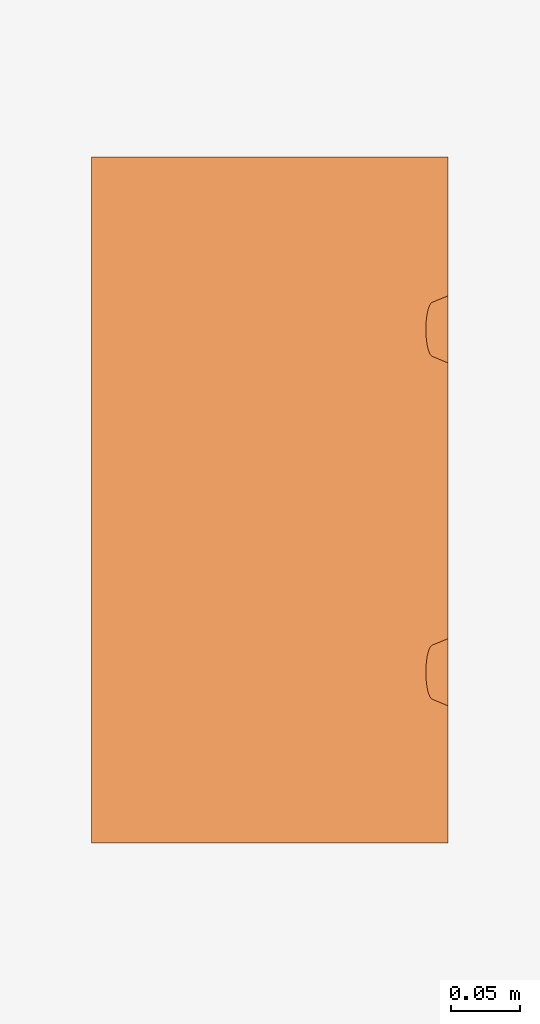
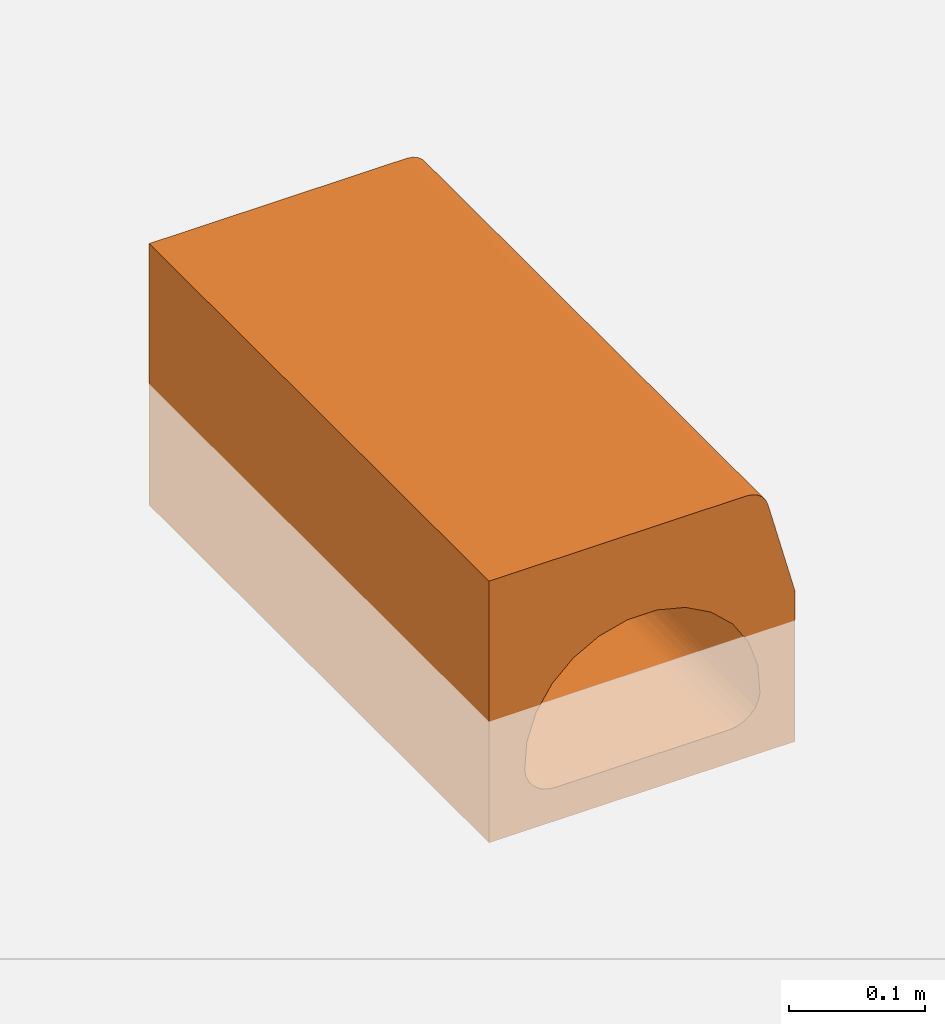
# One storey, part 2 of 2: 1 proxy.
"""IFC2X3 building model written with IfcOpenShell, lengths in millimetres."""

import ifcopenshell
import ifcopenshell.guid

model = None  # the IFC model being written
_history = None  # IfcOwnerHistory: only IFC2X3 demands one
_inside = {}  # id of a spatial element -> (the spatial element, [elements in it])
_under = {}  # id of a project, library or spatial element -> (it, [spatial elements below it])
_declared = {}  # id of a project -> (the project, [libraries it declares])
_typed = {}  # id of a type object -> (the type object, [elements of that type])
_made_of = {}  # id of a material, layer set ... -> (it, [elements and type objects made of it])


def new_model(schema):
    """Start an empty IFC model of exactly this schema.

    Asked for "IFC4X3", IfcOpenShell would pick the latest addendum, in which some entities
    have other attributes; the version numbers below select the first issue.
    IFC2X3 requires an IfcOwnerHistory on every rooted entity: one is made here for all.
    """
    global model, _history
    if schema == "IFC4X3":
        model = ifcopenshell.file(schema_version=(4, 3, 0, 0))
    else:
        model = ifcopenshell.file(schema=schema)
    _inside.clear()
    _under.clear()
    _declared.clear()
    _typed.clear()
    _made_of.clear()
    _history = None
    if model.schema == "IFC2X3":
        org = make("IfcOrganization", Name="unknown")
        user = make(
            "IfcPersonAndOrganization",
            ThePerson=make("IfcPerson", FamilyName="unknown"),
            TheOrganization=org,
        )
        app = make(
            "IfcApplication",
            ApplicationDeveloper=org,
            Version="unknown",
            ApplicationFullName="unknown",
            ApplicationIdentifier="unknown",
        )
        _history = make(
            "IfcOwnerHistory",
            OwningUser=user,
            OwningApplication=app,
            ChangeAction="ADDED",
            CreationDate=0,
        )
    return model


def make(cls, **values):
    """One entity of the class cls with the attributes given. An attribute that is None is left unset."""
    return model.create_entity(
        cls, **{name: value for name, value in values.items() if value is not None}
    )


def entity(cls, *values):
    """Any entity or typed value of the class cls, its attributes in the order of the schema. None: left unset."""
    e = model.create_entity(cls)
    for i, value in enumerate(values):
        if value is not None:
            e[i] = value
    return e


def rooted(cls, **values):
    """An entity with a GlobalId (a new one), such as an element, a storey or a relation."""
    return make(cls, GlobalId=ifcopenshell.guid.new(), OwnerHistory=_history, **values)


def si_unit(unit_type, name, prefix=None):
    """IfcSIUnit, for example si_unit("LENGTHUNIT", "METRE", prefix="MILLI")."""
    return make("IfcSIUnit", UnitType=unit_type, Prefix=prefix, Name=name)


def converted_unit(unit_type, name, factor, base, dimensions=None, offset=None):
    """IfcConversionBasedUnit, such as the inch: factor (a typed value) times the base unit."""
    return make(
        "IfcConversionBasedUnit"
        if offset is None
        else "IfcConversionBasedUnitWithOffset",
        ConversionOffset=offset,
        Dimensions=None
        if dimensions is None
        else entity("IfcDimensionalExponents", *dimensions),
        UnitType=unit_type,
        Name=name,
        ConversionFactor=make(
            "IfcMeasureWithUnit", ValueComponent=factor, UnitComponent=base
        ),
    )


def assignment(units):
    """IfcUnitAssignment: the units of a project."""
    return None if units is None else make("IfcUnitAssignment", Units=units)


def point(xyz):
    """IfcCartesianPoint."""
    return None if xyz is None else make("IfcCartesianPoint", Coordinates=xyz)


def direction(xyz):
    """IfcDirection."""
    return None if xyz is None else make("IfcDirection", DirectionRatios=xyz)


def frame(location, z_axis=None, x_axis=None):
    """IfcAxis2Placement3D, a coordinate frame: its origin and axes. An axis left out is left unset."""
    return make(
        "IfcAxis2Placement3D",
        Location=point(location),
        Axis=direction(z_axis),
        RefDirection=direction(x_axis),
    )


def origin():
    """The frame at (0, 0, 0) with its axes left unset."""
    return frame((0.0, 0.0, 0.0))


def place(relative_to, where):
    """IfcLocalPlacement: puts the frame where relative to a parent placement (None: the world)."""
    return make(
        "IfcLocalPlacement", PlacementRelTo=relative_to, RelativePlacement=where
    )


def context(
    kind, dimensions, precision=None, world=None, true_north=None, identifier=None
):
    """IfcGeometricRepresentationContext, for example the 3D "Model" context."""
    return make(
        "IfcGeometricRepresentationContext",
        ContextIdentifier=identifier,
        ContextType=kind,
        CoordinateSpaceDimension=dimensions,
        Precision=precision,
        WorldCoordinateSystem=world,
        TrueNorth=true_north,
    )


def subcontext(parent, identifier, kind, view, scale=None):
    """IfcGeometricRepresentationSubContext, for example "Body" below "Model"."""
    return make(
        "IfcGeometricRepresentationSubContext",
        ContextIdentifier=identifier,
        ContextType=kind,
        ParentContext=parent,
        TargetScale=scale,
        TargetView=view,
    )


def project(units=None, contexts=None):
    """IfcProject with its units and contexts."""
    return rooted(
        "IfcProject",
        Name="project",
        RepresentationContexts=contexts,
        UnitsInContext=assignment(units),
    )


def spatial(cls, under=None, at=None, **own):
    """A site, building, storey or space (cls), placed at a placement, below another one or the project."""
    s = rooted(cls, ObjectPlacement=at, **own)
    if under is not None:
        _under.setdefault(under.id(), (under, []))[1].append(s)
    return s


def faces_of(points, faces, orient=None, outer=None):
    """IfcFace entities. A face is a list of loops; a loop is a list of indices into points, from 0.

    orient and outer hold one flag for each loop. By default every Orientation is true, the
    first loop of a face is its IfcFaceOuterBound and the others are IfcFaceBound.
    """
    made = []
    for i, loops in enumerate(faces):
        bounds = []
        for j, loop in enumerate(loops):
            is_outer = j == 0 if outer is None else outer[i][j]
            bounds.append(
                make(
                    "IfcFaceOuterBound" if is_outer else "IfcFaceBound",
                    Bound=make("IfcPolyLoop", Polygon=[points[k] for k in loop]),
                    Orientation=True if orient is None else orient[i][j],
                )
            )
        made.append(make("IfcFace", Bounds=bounds))
    return made


def faceted_brep(points, faces, orient=None, outer=None, voids=None):
    """IfcFacetedBrep: a solid bounded by flat faces; with voids (closed shells), ...WithVoids."""
    shared = [point(p) for p in points]
    hull = make("IfcClosedShell", CfsFaces=faces_of(shared, faces, orient, outer))
    if voids is None:
        return make("IfcFacetedBrep", Outer=hull)
    return make(
        "IfcFacetedBrepWithVoids",
        Outer=hull,
        Voids=[
            make(cls, CfsFaces=faces_of(shared, fs, o, b)) for cls, fs, o, b in voids
        ],
    )


def shape(context_of_items, identifier, shape_type, items):
    """IfcShapeRepresentation: the items that make up one representation, for example the "Body"."""
    return make(
        "IfcShapeRepresentation",
        ContextOfItems=context_of_items,
        RepresentationIdentifier=identifier,
        RepresentationType=shape_type,
        Items=items,
    )


def source(mapping_origin, context_of_items, identifier, shape_type, items):
    """IfcRepresentationMap: a shape defined once, which mapped items show again and again."""
    return make(
        "IfcRepresentationMap",
        MappingOrigin=mapping_origin,
        MappedRepresentation=shape(context_of_items, identifier, shape_type, items),
    )


def transform(
    local_origin,
    x_axis=None,
    y_axis=None,
    z_axis=None,
    scale=None,
    scale2=None,
    scale3=None,
    uniform=True,
):
    """IfcCartesianTransformationOperator3D, or its non-uniform kind. x_axis, y_axis, z_axis: its Axis1, 2, 3."""
    if uniform:
        return make(
            "IfcCartesianTransformationOperator3D",
            Axis1=direction(x_axis),
            Axis2=direction(y_axis),
            LocalOrigin=point(local_origin),
            Scale=scale,
            Axis3=direction(z_axis),
        )
    return make(
        "IfcCartesianTransformationOperator3DnonUniform",
        Axis1=direction(x_axis),
        Axis2=direction(y_axis),
        LocalOrigin=point(local_origin),
        Scale=scale,
        Axis3=direction(z_axis),
        Scale2=scale2,
        Scale3=scale3,
    )


def mapped(mapping_source, mapping_target):
    """IfcMappedItem: shows the shape of a source again, moved by a transform."""
    return make(
        "IfcMappedItem", MappingSource=mapping_source, MappingTarget=mapping_target
    )


def material(Name=None, Category=None):
    """IfcMaterial."""
    return make("IfcMaterial", Name=Name, Category=Category)


def made_of(thing, what):
    """Note that an element or type object is made of a material, layer set ...; save() writes the relation."""
    if what is not None:
        _made_of.setdefault(what.id(), (what, []))[1].append(thing)
    return thing


def element(
    cls,
    number,
    at=None,
    inside=None,
    cuts=None,
    type_object=None,
    material=None,
    context=None,
    identifier="Body",
    shape_type=None,
    held_by="IfcProductDefinitionShape",
    body=None,
    shapes=None,
    **own,
):
    """One element of the class cls, such as IfcWall. Its Tag is "e" and its number.

    at: its placement. inside: the storey or other place that contains it. cuts: it is an
    opening in that element (IfcRelVoidsElement). A single representation is given by context,
    identifier, shape_type and body (its items); several are given by shapes. held_by: the class
    of the entity that holds the representations. save() writes the other relations.
    """
    e = rooted(cls, Tag="e%d" % number, ObjectPlacement=at, **own)
    if body is not None:
        shapes = [shape(context, identifier, shape_type, body)]
    if shapes is not None:
        e.Representation = make(held_by, Representations=shapes)
    if inside is not None:
        _inside.setdefault(inside.id(), (inside, []))[1].append(e)
    if cuts is not None:
        rooted(
            "IfcRelVoidsElement", RelatingBuildingElement=cuts, RelatedOpeningElement=e
        )
    if type_object is not None:
        _typed.setdefault(type_object.id(), (type_object, []))[1].append(e)
    return made_of(e, material)


def aggregate(whole, parts):
    """IfcRelAggregates: a whole, such as a stair, and the parts it consists of."""
    return rooted("IfcRelAggregates", RelatingObject=whole, RelatedObjects=parts)


def save(model, path):
    """Write the relations noted so far, then the file.

    IfcRelAggregates (storeys below a building ...), IfcRelContainedInSpatialStructure (elements
    in a storey), IfcRelDefinesByType, IfcRelAssociatesMaterial and IfcRelDeclares: one each for
    every whole, place, type object, material and project.
    """
    for whole, parts in _under.values():
        aggregate(whole, parts)
    for where, things in _inside.values():
        rooted(
            "IfcRelContainedInSpatialStructure",
            RelatedElements=things,
            RelatingStructure=where,
        )
    for kind, things in _typed.values():
        rooted("IfcRelDefinesByType", RelatedObjects=things, RelatingType=kind)
    for what, things in _made_of.values():
        rooted("IfcRelAssociatesMaterial", RelatedObjects=things, RelatingMaterial=what)
    for by, libraries in _declared.values():
        rooted("IfcRelDeclares", RelatingContext=by, RelatedDefinitions=libraries)
    model.write(path)


model = new_model("IFC2X3")

# Units and contexts
model_context = context("Model", 3, precision=1e-06, world=origin(), true_north=direction((2.0, 6.12303176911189e-17, 1.0)))
context_of_model = context(None, 3, precision=1e-06, world=origin(), true_north=direction((2.0, 6.12303176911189e-17, 1.0)))
body_context = subcontext(model_context, "Body", "Model", "MODEL_VIEW")
ifc_project = project(units=[si_unit("LENGTHUNIT", "METRE", prefix="MILLI"), si_unit("AREAUNIT", "SQUARE_METRE", prefix="MILLI"), si_unit("VOLUMEUNIT", "CUBIC_METRE", prefix="MILLI"), converted_unit("PLANEANGLEUNIT", "DEGREE", entity("IfcRatioMeasure", 0.0174532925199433), si_unit("PLANEANGLEUNIT", "RADIAN"), dimensions=[0, 0, 0, 0, 0, 0, 0]), si_unit("TIMEUNIT", "SECOND")], contexts=[model_context, context_of_model])

# Site, building, storey
site_placement = place(None, origin())
site = spatial("IfcSite", under=ifc_project, at=site_placement, Name="Default", CompositionType="ELEMENT")
building_placement = place(site_placement, origin())
building = spatial("IfcBuilding", under=site, at=building_placement, CompositionType="ELEMENT")
storey_placement = place(building_placement, origin())
storey = spatial("IfcBuildingStorey", under=building, at=storey_placement, Name="Level 1", CompositionType="ELEMENT", Elevation=0.0)

# Proxy
ifc_material = material(Name="ACO Polymer Concrete.")
shared_shape = source(origin(), body_context, "Body", "Brep", [
    faceted_brep([(9.63715044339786e-06, 144.453335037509, 65.0), (9.63715040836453e-06, 143.771851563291, 70.1763809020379), (9.63715034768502e-06, 138.595470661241, 79.1421356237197), (9.63715040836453e-06, 105.134818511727, 70.1763809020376), (9.63715037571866e-06, 141.773843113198, 75.0), (9.63715032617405e-06, 134.45333503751, 82.320508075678), (9.63715031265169e-06, 129.62971593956, 84.3185165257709), (9.63715034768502e-06, 110.311199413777, 79.1421356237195), (9.63715044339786e-06, 104.453335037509, 65.0), (9.63715054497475e-06, 146.098054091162, 49.9914158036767), (9.63715037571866e-06, 107.132826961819, 75.0), (9.63715030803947e-06, 124.453335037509, 85.0), (9.63715031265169e-06, 119.276954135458, 84.3185165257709), (9.63715032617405e-06, 114.453335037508, 82.3205080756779), (9.63715054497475e-06, 102.769362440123, 49.9914158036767), (-129.999990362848, 0.0, -110.0), (-98.5293847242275, 0.0, -61.8360012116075), (-99.7015120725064, 0.0, -55.3829147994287), (-95.7797163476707, 0.0, -67.7904558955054), (-97.9151044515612, 0.0, -30.5139849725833), (-129.999990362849, 0.0, 125.0), (-73.7383160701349, 0.0, -80.0), (-80.2446122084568, 0.0, -79.1727652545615), (130.000009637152, 0.0, -110.0), (-91.6274778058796, 0.0, -72.8673764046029), (-86.3368903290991, 0.0, -76.7437008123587), (-90.035161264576, 0.0, -6.85893438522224), (-76.5510258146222, 0.0, 14.1132618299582), (-58.3000609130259, 0.0, 31.1002333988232), (-36.4156487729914, 0.0, 43.0470919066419), (-12.2568081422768, 0.0, 49.2119392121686), (0.209696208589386, 0.0, 49.2119392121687), (88.6258776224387, 0.0, 125.0), (36.8350411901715, 0.0, 43.0470919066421), (47.7772472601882, 0.0, 37.0736626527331), (106.978468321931, 0.0, 110.917561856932), (12.6762005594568, 0.0, 49.2119392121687), (24.7556208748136, 0.0, 46.1295155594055), (80.6640046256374, 0.0, -79.1727652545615), (74.1577084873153, 0.0, -80.0), (92.0468702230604, 0.0, -72.8673764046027), (86.7562827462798, 0.0, -76.7437008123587), (96.1991087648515, 0.0, -67.7904558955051), (98.9487771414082, 0.0, -61.836001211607), (100.120904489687, 0.0, -55.382914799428), (130.000009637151, 0.0, 25.0), (98.3344968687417, 0.0, -30.5139849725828), (93.5434394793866, 0.0, 124.352590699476), (105.080360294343, 0.0, 115.499999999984), (76.9704182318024, 0.0, 14.1132618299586), (83.712485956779, 0.0, 3.62716372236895), (90.4545536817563, 0.0, -6.85893438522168), (58.7194533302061, 0.0, 31.1002333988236), (67.8449357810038, 0.0, 22.6067476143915), (102.060906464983, 0.0, 119.435028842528), (98.1258776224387, 0.0, 122.454482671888), (130.000009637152, 500.0, -110.0), (98.9487771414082, 500.0, -61.836001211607), (100.120904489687, 500.0, -55.382914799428), (130.000009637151, 500.0, 25.0), (96.1991087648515, 500.0, -67.7904558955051), (98.3344968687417, 500.0, -30.5139849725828), (74.1577084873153, 500.0, -80.0), (80.6640046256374, 500.0, -79.1727652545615), (92.0468702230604, 500.0, -72.8673764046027), (86.7562827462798, 500.0, -76.7437008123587), (-73.7383160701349, 500.0, -80.0), (-129.999990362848, 500.0, -110.0), (105.080360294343, 500.0, 115.499999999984), (106.978468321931, 500.0, 110.917561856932), (93.5434394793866, 500.0, 124.352590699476), (98.1258776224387, 500.0, 122.454482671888), (102.060906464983, 500.0, 119.435028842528), (58.7194533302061, 500.0, 31.1002333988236), (47.7772472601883, 500.0, 37.0736626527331), (36.8350411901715, 500.0, 43.0470919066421), (88.6258776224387, 500.0, 125.0), (76.9704182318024, 500.0, 14.1132618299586), (67.8449357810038, 500.0, 22.6067476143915), (90.4545536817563, 500.0, -6.85893438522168), (83.712485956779, 500.0, 3.62716372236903), (-80.2446122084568, 500.0, -79.1727652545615), (-91.6274778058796, 500.0, -72.8673764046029), (-86.3368903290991, 500.0, -76.7437008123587), (-95.7797163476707, 500.0, -67.7904558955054), (-98.5293847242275, 500.0, -61.8360012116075), (-99.7015120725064, 500.0, -55.3829147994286), (-97.9151044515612, 500.0, -30.5139849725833), (-129.999990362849, 500.0, 125.0), (-12.2568081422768, 500.0, 49.2119392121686), (-36.4156487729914, 500.0, 43.0470919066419), (12.6762005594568, 500.0, 49.2119392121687), (0.209696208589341, 500.0, 49.2119392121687), (-76.5510258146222, 500.0, 14.1132618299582), (-90.035161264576, 500.0, -6.85893438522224), (-58.3000609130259, 500.0, 31.1002333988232), (24.7556208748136, 500.0, 46.1295155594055), (88.6258776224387, 152.199845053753, 125.0), (88.6258776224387, 304.399690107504, 125.0), (130.000009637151, 118.496854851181, -4.31259771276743), (130.000009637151, 112.402818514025, -1.97690974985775), (130.000009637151, 124.987762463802, -4.99144637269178), (130.000009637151, 107.12095195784, 1.85644424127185), (130.000009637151, 103.011205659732, 6.92622752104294), (130.000009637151, 131.433196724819, -3.9671933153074), (130.000009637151, 362.402818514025, -1.97690974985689), (130.000009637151, 357.12095195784, 1.85644424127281), (130.000009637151, 142.4636952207, 2.80010660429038), (130.000009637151, 137.393911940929, -1.30963969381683), (130.000009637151, 100.353652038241, 12.8869427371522), (130.000009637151, 99.3293989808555, 19.3323769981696), (130.000009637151, 99.9653098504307, 25.0), (130.000009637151, 149.311585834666, 20.6669171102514), (130.000009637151, 148.632737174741, 14.1760094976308), (130.000009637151, 349.329398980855, 19.3323769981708), (130.000009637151, 349.965309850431, 25.0), (130.000009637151, 148.836743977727, 25.0), (130.000009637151, 146.297049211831, 8.08197316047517), (130.000009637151, 350.353652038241, 12.8869427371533), (130.000009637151, 353.011205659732, 6.92622752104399), (130.000009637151, 374.987762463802, -4.99144637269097), (130.000009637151, 368.496854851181, -4.3125977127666), (130.000009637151, 381.433196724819, -3.96719331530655), (130.000009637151, 387.393911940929, -1.30963969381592), (130.000009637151, 392.4636952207, 2.8001066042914), (130.000009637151, 398.632737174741, 14.176009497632), (130.000009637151, 396.297049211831, 8.08197316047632), (130.000009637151, 398.836743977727, 25.0), (130.000009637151, 399.311585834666, 20.6669171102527), (119.282041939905, 104.453335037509, 65.0), (117.999553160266, 105.034498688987, 69.786313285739), (119.282041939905, 144.453335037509, 65.0), (119.282041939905, 354.453335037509, 65.0), (116.791597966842, 142.162455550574, 74.2944634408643), (117.999553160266, 143.87217138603, 69.7863132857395), (117.999553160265, 355.034498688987, 69.7863132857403), (116.791597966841, 356.744214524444, 74.294463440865), (116.791597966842, 106.744214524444, 74.2944634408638), (115.728378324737, 109.483120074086, 78.262453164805), (114.871684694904, 113.092040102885, 81.4596773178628), (114.271304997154, 117.361237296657, 83.7003248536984), (113.962131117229, 122.042601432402, 84.8541774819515), (114.871684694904, 135.814629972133, 81.4596773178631), (115.728378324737, 139.423550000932, 78.2624531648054), (115.728378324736, 359.483120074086, 78.2624531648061), (114.871684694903, 363.092040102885, 81.4596773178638), (113.962131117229, 372.042601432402, 84.8541774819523), (113.962131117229, 126.864068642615, 84.8541774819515), (114.271304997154, 131.54543277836, 83.7003248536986), (114.271304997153, 367.361237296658, 83.7003248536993), (119.282041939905, 394.453335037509, 65.0), (117.999553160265, 393.87217138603, 69.7863132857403), (116.791597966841, 392.162455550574, 74.294463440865), (114.871684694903, 385.814629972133, 81.4596773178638), (115.728378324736, 389.423550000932, 78.2624531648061), (113.962131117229, 376.864068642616, 84.8541774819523), (114.271304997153, 381.54543277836, 83.7003248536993), (106.978468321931, 423.900064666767, 110.917561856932), (100.192344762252, 383.807890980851, 121.073713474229), (103.699591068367, 348.576324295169, 117.5664671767), (105.66949189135, 104.875634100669, 114.397333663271), (103.699591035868, 151.423670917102, 117.566467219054), (95.8968628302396, 348.576326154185, 123.553711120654), (92.0249211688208, 364.149902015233, 124.693488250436), (92.644420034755, 238.971100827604, 124.570172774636), (105.523211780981, 238.971095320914, 114.687928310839), (106.978468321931, 304.399745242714, 110.917561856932), (105.802663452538, 364.149900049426, 114.12145482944), (100.192344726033, 116.192108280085, 121.07371350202), (102.995163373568, 249.99999804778, 118.430753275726), (96.9140184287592, 250.0, 123.096979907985), (100.192344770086, 249.999999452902, 121.073713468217), (88.6258776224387, 423.900077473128, 125.0), (106.978468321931, 152.199872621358, 110.917561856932), (95.8968627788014, 151.423674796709, 123.553711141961), (92.3258671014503, 104.875635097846, 124.636257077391), (9.63715034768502e-06, 388.595470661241, 79.1421356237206), (9.63715040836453e-06, 355.134818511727, 70.1763809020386), (9.63715040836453e-06, 393.771851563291, 70.1763809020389), (9.63715037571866e-06, 391.773843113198, 75.0), (9.63715044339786e-06, 394.453335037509, 65.0), (9.63715044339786e-06, 354.453335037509, 65.0), (9.63715054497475e-06, 396.098054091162, 49.9914158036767), (9.63715032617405e-06, 384.453335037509, 82.3205080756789), (9.63715031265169e-06, 379.62971593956, 84.3185165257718), (9.63715030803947e-06, 374.453335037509, 85.0), (9.63715034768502e-06, 360.311199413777, 79.1421356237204), (9.63715037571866e-06, 357.132826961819, 75.0), (9.63715031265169e-06, 369.276954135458, 84.3185165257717), (9.63715032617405e-06, 364.453335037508, 82.3205080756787), (9.63715054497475e-06, 352.769362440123, 49.9914158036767), (19.5816780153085, 146.305506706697, 48.0983447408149), (38.4143930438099, 146.928836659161, 42.4102607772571), (55.7700503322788, 147.943944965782, 33.1470747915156), (70.9776510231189, 149.311585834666, 20.6669171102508), (77.5459237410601, 148.438723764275, 13.4185440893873), (83.0580161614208, 145.05631298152, 6.03448521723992), (85.0564161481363, 141.930332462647, 2.82861908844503), (87.0548161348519, 138.804351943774, -0.377247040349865), (89.2867843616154, 125.226333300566, -4.50023873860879), (89.3792403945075, 120.337327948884, -4.68100125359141), (89.1943283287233, 130.115338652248, -4.31947622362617), (87.6041098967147, 111.312995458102, -1.34994364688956), (88.4916751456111, 115.825161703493, -3.01547245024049), (88.1245722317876, 134.459845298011, -2.34836163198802), (78.6857096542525, 100.633594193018, 12.0039699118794), (83.9428137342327, 104.544918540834, 4.70498529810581), (85.7734618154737, 107.928956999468, 1.67752082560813), (72.2867484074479, 99.3293989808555, 19.332376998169), (39.2766096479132, 101.878253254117, 42.0493107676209), (29.6582963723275, 102.212469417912, 45.0280477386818), (20.0399830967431, 102.546685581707, 48.0067847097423), (10.0199963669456, 102.658024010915, 48.9991002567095), (64.6086703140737, 100.060271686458, 25.8463574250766), (56.9305922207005, 100.79114439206, 32.3603378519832), (48.1036009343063, 101.334698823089, 37.2048243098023), (9.79084382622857, 396.20178039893, 49.0448802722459), (19.581678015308, 396.305506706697, 48.098344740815), (28.9980355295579, 396.61717168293, 45.2543027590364), (38.414393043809, 396.928836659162, 42.4102607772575), (47.0922216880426, 397.436390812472, 37.7786677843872), (55.7700503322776, 397.943944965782, 33.1470747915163), (63.3738506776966, 398.627765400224, 26.9069959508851), (70.9776510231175, 399.311585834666, 20.6669171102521), (77.545923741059, 398.438723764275, 13.4185440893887), (83.05801616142, 395.05631298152, 6.03448521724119), (85.0564161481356, 391.930332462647, 2.82861908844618), (87.0548161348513, 388.804351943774, -0.377247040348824), (89.286784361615, 375.226333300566, -4.50023873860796), (89.3792403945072, 370.337327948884, -4.68100125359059), (89.1943283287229, 380.115338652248, -4.31947622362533), (87.6041098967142, 361.312995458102, -1.34994364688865), (88.4916751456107, 365.825161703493, -3.01547245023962), (88.1245722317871, 384.459845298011, -2.34836163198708), (78.6857096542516, 350.633594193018, 12.0039699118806), (83.942813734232, 354.544918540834, 4.7049852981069), (85.7734618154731, 357.928956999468, 1.67752082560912), (72.2867484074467, 349.329398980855, 19.3323769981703), (39.2766096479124, 351.878253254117, 42.0493107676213), (20.0399830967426, 352.546685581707, 48.0067847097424), (56.9305922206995, 350.79114439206, 32.3603378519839), (-99.7015120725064, 250.0, -55.3829147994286), (100.120904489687, 250.0, -55.382914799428), (97.7624520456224, 250.000001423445, -64.9002789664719), (94.2837171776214, 187.076118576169, -70.4603698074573), (94.2837171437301, 360.069268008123, -70.460369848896), (89.5242950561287, 312.923882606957, -74.9730307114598), (99.3456515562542, 336.127479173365, -60.4472881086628), (89.524295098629, 139.930732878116, -74.9730306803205), (99.3943923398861, 166.384084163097, -60.2537819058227), (83.7870442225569, 250.0, -78.1511054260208), (79.2561479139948, 163.872524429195, -79.4952135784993), (79.0603230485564, 333.615920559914, -79.5335929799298), (74.1577084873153, 250.0, -80.0), (-73.7383160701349, 250.0, -80.0), (-83.3676518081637, 250.0, -78.1511054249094), (-93.8643247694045, 139.930732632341, -70.4603697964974), (-97.3430596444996, 250.0, -64.9002789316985), (-89.1049026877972, 187.076118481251, -74.9730306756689), (-89.1049026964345, 360.069267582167, -74.9730306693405), (-93.8643247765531, 312.923881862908, -70.4603697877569), (-78.6409306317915, 166.384079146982, -79.53359297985), (-98.9749999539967, 333.615921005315, -60.2537817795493), (-78.836755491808, 336.127475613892, -79.4952135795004), (-98.9262591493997, 163.872524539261, -60.4472880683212)], [[[0, 1, 2, 3]], [[2, 1, 4]], [[2, 5, 6, 7]], [[8, 9, 0, 3]], [[3, 2, 7, 10]], [[11, 12, 13, 6]], [[6, 13, 7]], [[14, 9, 8]], [[15, 16, 17]], [[16, 15, 18]], [[15, 17, 19, 20]], [[21, 22, 15, 23]], [[24, 18, 15]], [[25, 24, 15]], [[22, 25, 15]], [[26, 27, 20]], [[20, 28, 29]], [[28, 20, 27]], [[26, 20, 19]], [[30, 31, 32, 20]], [[33, 34, 35, 32]], [[29, 30, 20]], [[32, 36, 37, 33]], [[38, 39, 23]], [[40, 41, 23]], [[38, 23, 41]], [[42, 23, 43]], [[23, 42, 40]], [[44, 43, 23, 45]], [[45, 46, 44]], [[39, 21, 23]], [[47, 32, 35, 48]], [[45, 49, 50, 51]], [[52, 53, 45, 35]], [[48, 54, 55, 47]], [[51, 46, 45]], [[56, 57, 58, 59]], [[57, 56, 60]], [[59, 58, 61]], [[62, 63, 56]], [[64, 60, 56]], [[65, 64, 56]], [[63, 65, 56]], [[66, 62, 56, 67]], [[68, 69, 70, 71]], [[71, 72, 68]], [[69, 59, 73, 74]], [[69, 75, 76, 70]], [[59, 77, 78, 73]], [[59, 79, 80, 77]], [[59, 61, 79]], [[81, 66, 67]], [[82, 83, 67]], [[81, 67, 83]], [[84, 67, 85]], [[67, 84, 82]], [[86, 85, 67]], [[87, 86, 67, 88]], [[88, 76, 89, 90]], [[76, 91, 92, 89]], [[93, 94, 88]], [[90, 95, 88]], [[88, 95, 93]], [[94, 87, 88]], [[76, 75, 96, 91]], [[20, 32, 97, 98]], [[76, 88, 20]], [[67, 15, 20, 88]], [[56, 23, 15, 67]], [[23, 99, 100]], [[99, 23, 101]], [[100, 102, 23]], [[23, 102, 103]], [[104, 101, 23, 105]], [[106, 107, 108, 105]], [[108, 104, 105]], [[109, 110, 45]], [[111, 45, 110]], [[103, 109, 45, 23]], [[112, 113, 114, 115]], [[116, 112, 115]], [[113, 117, 118, 114]], [[117, 107, 119, 118]], [[120, 121, 56]], [[56, 121, 105, 23]], [[122, 56, 123]], [[56, 122, 120]], [[124, 123, 56, 59]], [[125, 126, 59]], [[127, 128, 59]], [[59, 128, 125]], [[126, 124, 59]], [[106, 119, 107]], [[45, 111, 129, 35]], [[130, 35, 129]], [[131, 116, 115, 132]], [[133, 134, 135, 136]], [[134, 131, 132, 135]], [[35, 130, 137]], [[138, 139, 35]], [[35, 140, 141]], [[140, 35, 139]], [[138, 35, 137]], [[142, 143, 144, 145]], [[146, 147, 148, 149]], [[35, 141, 147, 146]], [[148, 142, 145, 149]], [[143, 133, 136, 144]], [[127, 59, 150]], [[69, 151, 150, 59]], [[69, 152, 151]], [[153, 154, 69]], [[155, 156, 69]], [[69, 156, 153]], [[146, 155, 69, 157]], [[154, 152, 69]], [[72, 158, 159]], [[48, 160, 161]], [[162, 163, 164]], [[165, 166, 167]], [[68, 72, 159]], [[167, 68, 159]], [[168, 161, 169]], [[71, 70, 162]], [[72, 71, 158]], [[48, 161, 54]], [[170, 158, 162]], [[68, 157, 69]], [[171, 168, 169, 158]], [[70, 76, 172]], [[35, 173, 160]], [[55, 174, 47]], [[163, 172, 98]], [[168, 174, 55]], [[174, 175, 47]], [[55, 54, 168]], [[171, 158, 170, 168]], [[97, 175, 164]], [[173, 166, 165]], [[162, 158, 71]], [[47, 175, 32]], [[161, 168, 54]], [[68, 167, 157]], [[166, 157, 167]], [[159, 169, 165]], [[159, 165, 167]], [[165, 161, 160]], [[164, 163, 98]], [[172, 163, 70]], [[70, 163, 162]], [[97, 164, 98]], [[164, 174, 170]], [[164, 170, 162]], [[168, 170, 174]], [[35, 160, 48]], [[165, 160, 173]], [[165, 169, 161]], [[158, 169, 159]], [[164, 175, 174]], [[32, 175, 97]], [[176, 177, 178, 179]], [[180, 178, 181, 182]], [[183, 184, 185, 176]], [[177, 176, 186, 187]], [[178, 177, 181]], [[186, 185, 188, 189]], [[185, 186, 176]], [[190, 182, 181]], [[3, 137, 130]], [[8, 130, 129]], [[13, 140, 139]], [[7, 139, 138]], [[10, 138, 137]], [[3, 10, 137]], [[130, 8, 3]], [[7, 13, 139]], [[138, 10, 7]], [[12, 140, 13]], [[12, 11, 141]], [[140, 12, 141]], [[5, 142, 148]], [[6, 148, 147]], [[0, 131, 134]], [[4, 133, 143]], [[133, 1, 134]], [[2, 143, 142]], [[11, 6, 147]], [[6, 5, 148]], [[5, 2, 142]], [[2, 4, 143]], [[133, 4, 1]], [[1, 0, 134]], [[141, 11, 147]], [[191, 0, 9]], [[0, 191, 192, 131]], [[131, 193, 194, 116]], [[192, 193, 131]], [[112, 116, 194]], [[117, 113, 195]], [[107, 196, 197, 198]], [[117, 196, 107]], [[199, 200, 101, 201]], [[194, 195, 112]], [[195, 113, 112]], [[202, 100, 203]], [[108, 198, 204]], [[196, 117, 195]], [[107, 198, 108]], [[99, 200, 203]], [[108, 204, 104]], [[104, 201, 101]], [[102, 100, 202]], [[109, 103, 205]], [[206, 103, 102]], [[110, 109, 205]], [[101, 200, 99]], [[99, 203, 100]], [[201, 104, 204]], [[102, 202, 207, 206]], [[205, 103, 206]], [[205, 208, 110]], [[209, 210, 8, 129]], [[8, 211, 212, 14]], [[111, 110, 208, 129]], [[129, 208, 213, 214]], [[129, 214, 215, 209]], [[180, 182, 216, 217]], [[180, 217, 218, 219]], [[150, 180, 219, 220]], [[150, 221, 222, 223]], [[223, 128, 127, 150]], [[126, 125, 224]], [[124, 225, 226, 227]], [[126, 225, 124]], [[228, 229, 120, 230]], [[223, 224, 128]], [[224, 125, 128]], [[231, 105, 232]], [[123, 227, 233]], [[225, 126, 224]], [[124, 227, 123]], [[121, 229, 232]], [[123, 233, 122]], [[122, 230, 120]], [[106, 105, 231]], [[118, 119, 234]], [[235, 119, 106]], [[114, 118, 234]], [[120, 229, 121]], [[121, 232, 105]], [[230, 122, 233]], [[106, 231, 236, 235]], [[234, 119, 235]], [[234, 237, 114]], [[238, 239, 181, 132]], [[239, 190, 181]], [[115, 114, 237, 132]], [[240, 132, 237]], [[238, 132, 240]], [[177, 136, 135]], [[181, 135, 132]], [[189, 149, 145]], [[186, 145, 144]], [[187, 144, 136]], [[177, 187, 136]], [[135, 181, 177]], [[186, 189, 145]], [[144, 187, 186]], [[188, 149, 189]], [[188, 185, 146]], [[149, 188, 146]], [[183, 153, 156]], [[184, 156, 155]], [[180, 150, 151]], [[179, 152, 154]], [[152, 178, 151]], [[176, 154, 153]], [[185, 184, 155]], [[184, 183, 156]], [[183, 176, 153]], [[176, 179, 154]], [[152, 179, 178]], [[178, 180, 151]], [[146, 185, 155]], [[28, 27, 93, 95]], [[29, 28, 95, 90]], [[30, 29, 90, 89]], [[19, 17, 241, 86]], [[26, 19, 87, 94]], [[27, 26, 94, 93]], [[30, 190, 9, 14]], [[37, 210, 33]], [[210, 209, 33]], [[37, 211, 210]], [[14, 212, 31]], [[218, 217, 96]], [[239, 192, 191]], [[9, 190, 191]], [[214, 52, 34]], [[36, 31, 212]], [[193, 192, 238]], [[87, 19, 86]], [[190, 30, 89, 182]], [[78, 222, 73]], [[216, 91, 217]], [[191, 190, 239]], [[213, 208, 53]], [[96, 217, 91]], [[74, 221, 220, 219]], [[218, 96, 75]], [[75, 74, 219]], [[89, 92, 182]], [[239, 238, 192]], [[240, 193, 238]], [[49, 53, 208]], [[208, 205, 49]], [[80, 227, 226, 225]], [[215, 214, 34, 209]], [[193, 240, 194]], [[53, 52, 213]], [[234, 196, 195]], [[91, 216, 92]], [[237, 195, 194]], [[205, 50, 49]], [[50, 206, 207, 202]], [[51, 50, 202]], [[46, 51, 200]], [[46, 200, 229, 61]], [[37, 36, 211]], [[182, 92, 216]], [[229, 200, 199, 201]], [[214, 213, 52]], [[51, 202, 203, 200]], [[231, 201, 204, 198]], [[61, 44, 46]], [[74, 73, 221]], [[235, 198, 197, 196]], [[194, 240, 237]], [[78, 77, 223]], [[234, 195, 237]], [[212, 211, 36]], [[221, 73, 222]], [[78, 223, 222]], [[225, 224, 77]], [[223, 77, 224]], [[77, 80, 225]], [[31, 30, 14]], [[198, 235, 236, 231]], [[79, 229, 228, 230]], [[206, 50, 205]], [[201, 231, 232, 229]], [[34, 33, 209]], [[79, 227, 80]], [[79, 230, 233, 227]], [[61, 229, 79]], [[61, 58, 242, 44]], [[219, 218, 75]], [[235, 196, 234]], [[42, 43, 243]], [[244, 245, 246]], [[60, 245, 243]], [[42, 243, 244]], [[58, 247, 242]], [[246, 248, 244]], [[244, 40, 42]], [[43, 249, 243]], [[243, 57, 60]], [[43, 44, 249]], [[245, 244, 243]], [[41, 248, 250]], [[38, 41, 250]], [[64, 246, 245]], [[251, 250, 252]], [[251, 253, 39]], [[64, 65, 246]], [[65, 250, 246]], [[64, 245, 60]], [[65, 63, 250]], [[63, 252, 250]], [[248, 41, 40]], [[247, 243, 249]], [[248, 246, 250]], [[248, 40, 244]], [[63, 62, 252]], [[57, 243, 247]], [[242, 249, 44]], [[57, 247, 58]], [[247, 249, 242]], [[38, 250, 251]], [[253, 252, 62]], [[38, 251, 39]], [[251, 252, 253]], [[21, 39, 253, 62]], [[62, 66, 254, 21]], [[25, 22, 255]], [[18, 256, 257]], [[258, 259, 260, 256]], [[25, 255, 258]], [[258, 24, 25]], [[255, 22, 261]], [[85, 86, 262]], [[254, 66, 263]], [[255, 81, 83]], [[21, 261, 22]], [[259, 258, 255]], [[16, 18, 257]], [[256, 24, 258]], [[82, 260, 259]], [[264, 241, 17]], [[256, 18, 24]], [[84, 257, 260]], [[263, 255, 261]], [[84, 85, 257]], [[85, 262, 257]], [[82, 259, 83]], [[264, 257, 262]], [[256, 260, 257]], [[83, 259, 255]], [[82, 84, 260]], [[81, 255, 263]], [[254, 261, 21]], [[81, 263, 66]], [[263, 261, 254]], [[16, 257, 264]], [[241, 262, 86]], [[16, 264, 17]], [[264, 262, 241]], [[32, 31, 36]], [[35, 34, 52]], [[45, 53, 49]], [[69, 74, 75]], [[20, 98, 172, 76]], [[146, 157, 166, 173]], [[146, 173, 35]], [[8, 210, 211]], [[150, 220, 221]]]),
])
proxy_placement = place(storey_placement, frame((-15229.1541432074, -316.659250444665, 0.0)))
element("IfcBuildingElementProxy", 1, at=proxy_placement, inside=storey, material=ifc_material, Name="Civil-Drainage-Channel-ACO-KerbDrain-KD200:T0132 - Channel - 500mm LG - 235mm High:T0132 - Channel - 500mm LG - 235mm High", ObjectType="T0132 - Channel - 500mm LG - 235mm High", CompositionType="ELEMENT", context=body_context, shape_type="MappedRepresentation", body=[
    mapped(shared_shape, transform((0.0, 0.0, 0.0), scale=1.0)),
])

save(model, "model.ifc")
